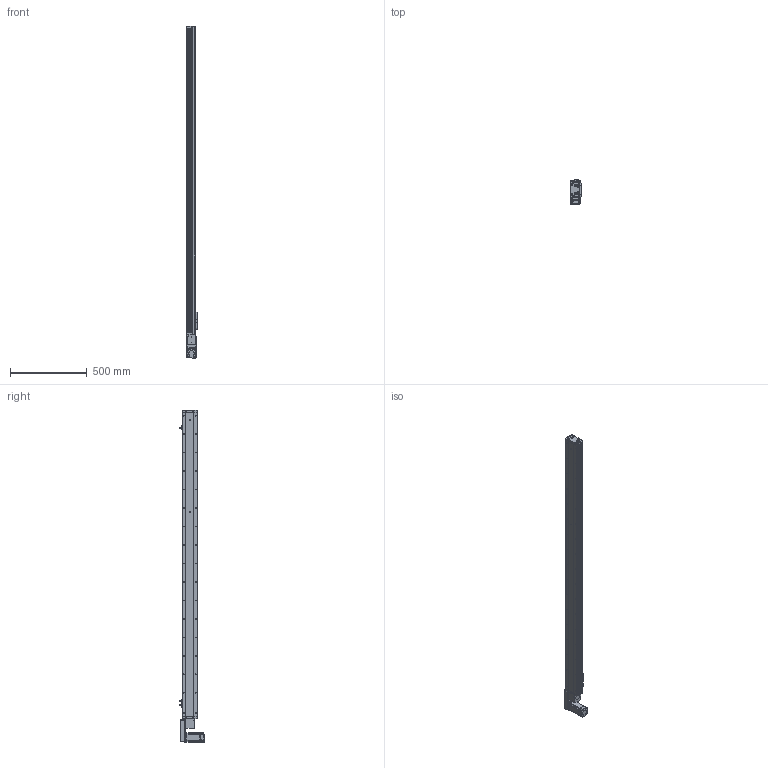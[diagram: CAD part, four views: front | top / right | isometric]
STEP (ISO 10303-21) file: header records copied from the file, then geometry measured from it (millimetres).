
FILE_DESCRIPTION (( 'STEP AP214' ), '1' );
FILE_NAME ('KSD100B-S1800-MLB-CR.STEP', '2019-09-06T09:20:19', ( '微软用户' ), ( '微软中国' ), 'SwSTEP 2.0', 'SolidWorks 2014', '' );
FILE_SCHEMA (( 'AUTOMOTIVE_DESIGN' ));
Length unit declared in the file: millimetre
Products named in the file (15): U倰嫖萇EEㄜSX672; 100宽马达安装板同步带左; 100遵鎮湛假蚾啣蜊; 100宽端板同步带全封闭; 悵誘欶奻狟殏; 100宽滚珠螺姆安装板1防护罩; 100宽滚珠螺姆安装板1; 100遵裔啣揤啣; 100遵裔啣1800俴最; MHMD042G1CA_2_03; 100宽侧板1800行程同步带; 100宽底板全封闭1800行程同步带; KSD100B-S1800-MLB-CR; 100宽马达安装板连板上下折丝杆同步带; 感应片100宽全封闭
Assembly tree (18 placements, depth 2):
  KSD100B-S1800-MLB-CR
    100宽底板全封闭1800行程同步带
    100宽侧板1800行程同步带  x2
    100遵裔啣1800俴最
    100遵裔啣揤啣  x2
    100宽滚珠螺姆安装板1
    100宽滚珠螺姆安装板1防护罩
    100宽端板同步带全封闭
    100遵鎮湛假蚾啣蜊
    100宽马达安装板同步带左
    U倰嫖萇EEㄜSX672  x3
    感应片100宽全封闭
    100宽马达安装板连板上下折丝杆同步带
    悵誘欶奻狟殏
    MHMD042G1CA_2_03
Bounding box: 70 x 156.2 x 2157 mm (x, y, z)
Volume: 3929196.2 mm3; surface area: 1709098.6 mm2
Topology: 17 solids, 18 shells, 2025 faces, 5674 edges, 3573 vertices
Faces by surface type: cylinder 929, plane 741, cone 335, bspline 20
Entity records: 72202 total; most frequent: CARTESIAN_POINT 11254, DIRECTION 9900, ORIENTED_EDGE 9072, EDGE_CURVE 4608, AXIS2_PLACEMENT_3D 3633, VERTEX_POINT 3051, LINE 2634, VECTOR 2634
